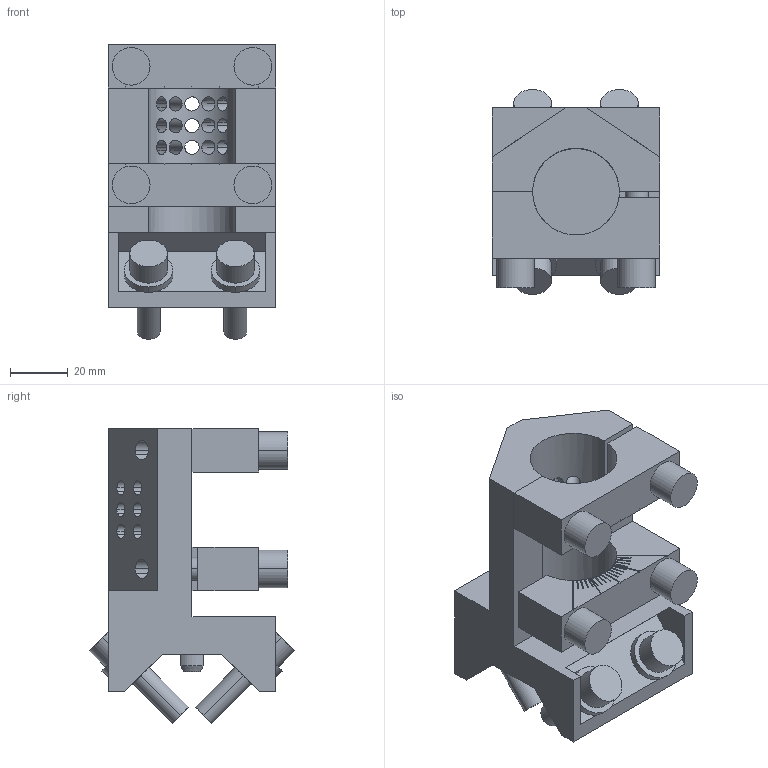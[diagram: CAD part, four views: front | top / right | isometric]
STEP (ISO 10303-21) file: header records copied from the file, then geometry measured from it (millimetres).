
FILE_DESCRIPTION(('STEP AP214'),'1');
FILE_NAME('EGT108_1705079_50RD30_L90.CATPart.stp','2015-09-14T13:08:20',('3D-Tool'),(' '),'Spatial InterOp 3D',' ',' ');
FILE_SCHEMA(('automotive_design'));
Length unit declared in the file: millimetre
Products named in the file (12): EGT108_1705079_50RD30_L90|EGT108_50RD30_L90|Bohrbearbeitung; EGT108_1705079_50RD30_L90|EGT205_SCHELLE_RD30_1|Assemble.75; EGT108_1705079_50RD30_L90|EGT205_SCHELLE_RD30_2|Assemble.76; 1; 2; 3; 4; EGT108_1705079_50RD30_L90|EGT_212_ZENTRIERSTIFT|Pocket.3; 5; 6; 7; 8
Bounding box: 58 x 70.85 x 101.87 mm (x, y, z)
Volume: 147313.6 mm3; surface area: 53342.4 mm2
Topology: 12 solids, 12 shells, 383 faces, 1022 edges, 680 vertices
Faces by surface type: plane 208, cylinder 173, cone 2
Entity records: 17433 total; most frequent: CARTESIAN_POINT 4569, ORIENTED_EDGE 2044, DIRECTION 1866, EDGE_CURVE 1022, VERTEX_POINT 680, AXIS2_PLACEMENT_3D 661, LINE 544, VECTOR 544
